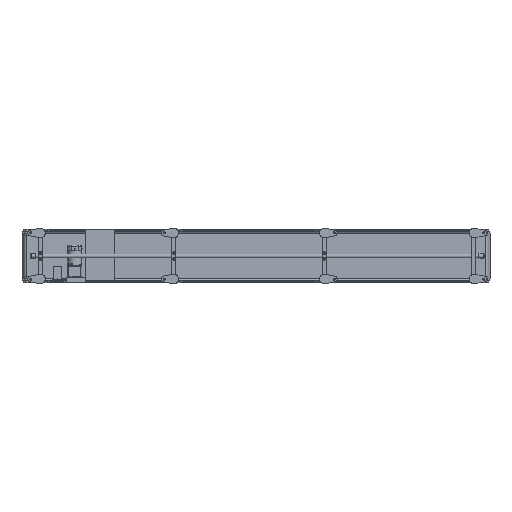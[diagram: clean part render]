
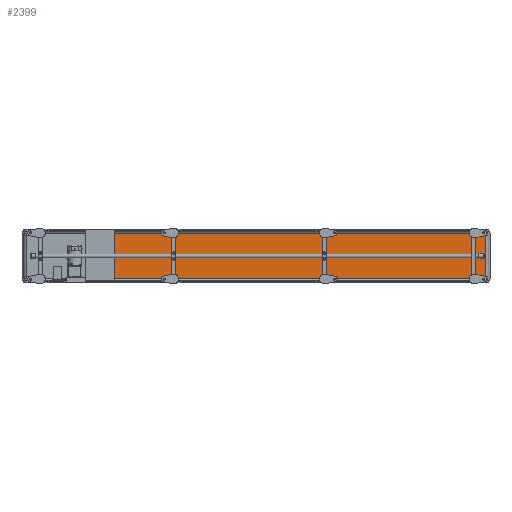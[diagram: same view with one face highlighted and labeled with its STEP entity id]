
A CAD part, front view. The second image highlights one B-rep face of the part: STEP entity #2399.
In plain terms, the highlighted planar face has unit normal (-0.005, -1, 0).
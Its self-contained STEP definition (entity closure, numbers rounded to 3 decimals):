
#2399=ADVANCED_FACE('',(#7026),#7025,.F.);
#7025=PLANE('',#33097);
#7026=FACE_OUTER_BOUND('',#33098,.T.);
#33094=CARTESIAN_POINT('',(2976.39,-37.349,-155.));
#33095=DIRECTION('',(0.005,1.,0.));
#33096=DIRECTION('',(-1.,0.005,0.));
#33097=AXIS2_PLACEMENT_3D('',#33094,#33095,#33096);
#33098=EDGE_LOOP('',(#49323,#49324,#49325,#49326));
#49323=ORIENTED_EDGE('',*,*,#62111,.T.);
#49324=ORIENTED_EDGE('',*,*,#62158,.F.);
#49325=ORIENTED_EDGE('',*,*,#62129,.F.);
#49326=ORIENTED_EDGE('',*,*,#62157,.T.);
#62111=EDGE_CURVE('',#72130,#72123,#72131,.T.);
#62129=EDGE_CURVE('',#72249,#72256,#72257,.T.);
#62157=EDGE_CURVE('',#72249,#72130,#72441,.T.);
#62158=EDGE_CURVE('',#72256,#72123,#72447,.T.);
#72123=VERTEX_POINT('',#115036);
#72130=VERTEX_POINT('',#115041);
#72131=LINE('',#115042,#115043);
#72249=VERTEX_POINT('',#115114);
#72256=VERTEX_POINT('',#115118);
#72257=LINE('',#115119,#115120);
#72441=LINE('',#115224,#115225);
#72447=LINE('',#115227,#115228);
#115036=CARTESIAN_POINT('',(2966.39,-37.3,-145.));
#115041=CARTESIAN_POINT('',(551.694,-25.29,-145.));
#115042=CARTESIAN_POINT('',(551.694,-25.29,-145.));
#115043=VECTOR('',#115044,2414.726);
#115044=DIRECTION('',(1.,-0.005,0.));
#115114=CARTESIAN_POINT('',(551.694,-25.29,145.));
#115118=CARTESIAN_POINT('',(2966.39,-37.3,145.));
#115119=CARTESIAN_POINT('',(551.694,-25.29,145.));
#115120=VECTOR('',#115121,2414.726);
#115121=DIRECTION('',(1.,-0.005,0.));
#115224=CARTESIAN_POINT('',(551.694,-25.29,145.));
#115225=VECTOR('',#115226,290.);
#115226=DIRECTION('',(0.,0.,-1.));
#115227=CARTESIAN_POINT('',(2966.39,-37.3,145.));
#115228=VECTOR('',#115229,290.);
#115229=DIRECTION('',(0.,0.,-1.));
